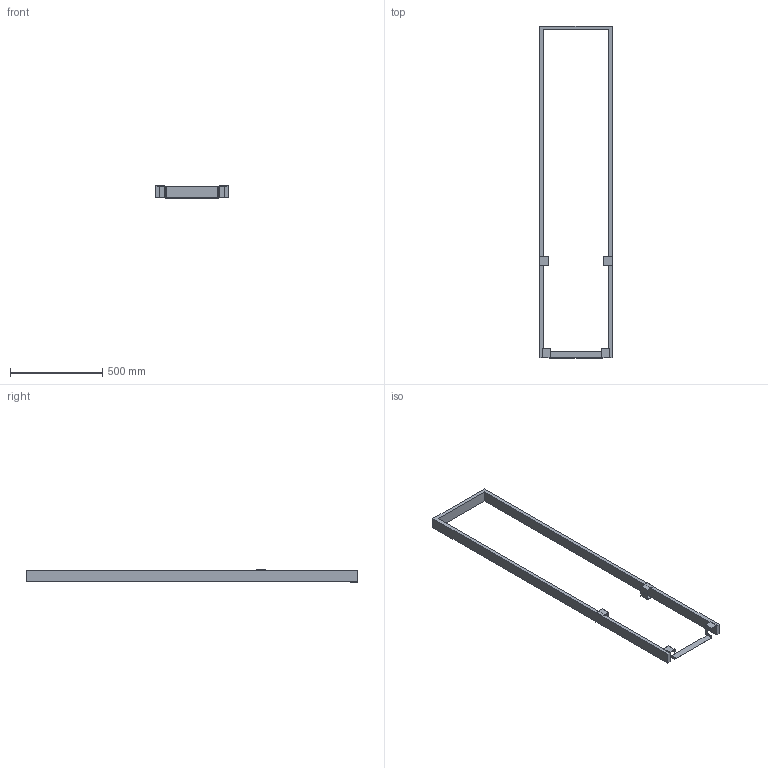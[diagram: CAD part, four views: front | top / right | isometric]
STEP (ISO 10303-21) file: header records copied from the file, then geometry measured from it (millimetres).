
FILE_DESCRIPTION((''),'2;1');
FILE_NAME('52332388','2024-12-18T13:09:39',('wep'),('HUBER SE'),'CREO PARAMETRIC BY PTC INC, 2022162','CREO PARAMETRIC BY PTC INC, 2022162','');
FILE_SCHEMA(('AUTOMOTIVE_DESIGN { 1 0 10303 214 1 1 1 1 }'));
Length unit declared in the file: millimetre
Products named in the file (1): 52332388
Bounding box: 394 x 1800 x 65.5 mm (x, y, z)
Volume: 4811834 mm3; surface area: 705367.1 mm2
Topology: 3 solids, 3 shells, 58 faces, 160 edges, 106 vertices
Faces by surface type: plane 52, cylinder 6
Entity records: 2341 total; most frequent: CARTESIAN_POINT 326, ORIENTED_EDGE 320, DIRECTION 288, EDGE_CURVE 160, VECTOR 148, LINE 148, VERTEX_POINT 106, COLOUR_RGB 106
